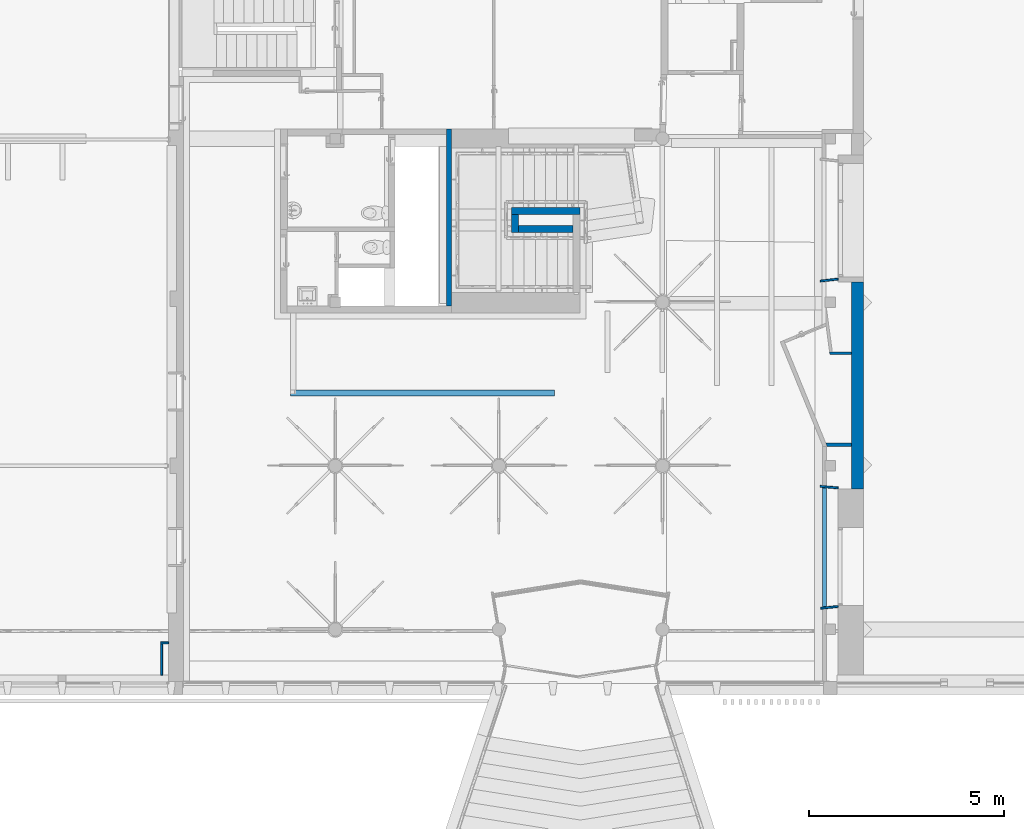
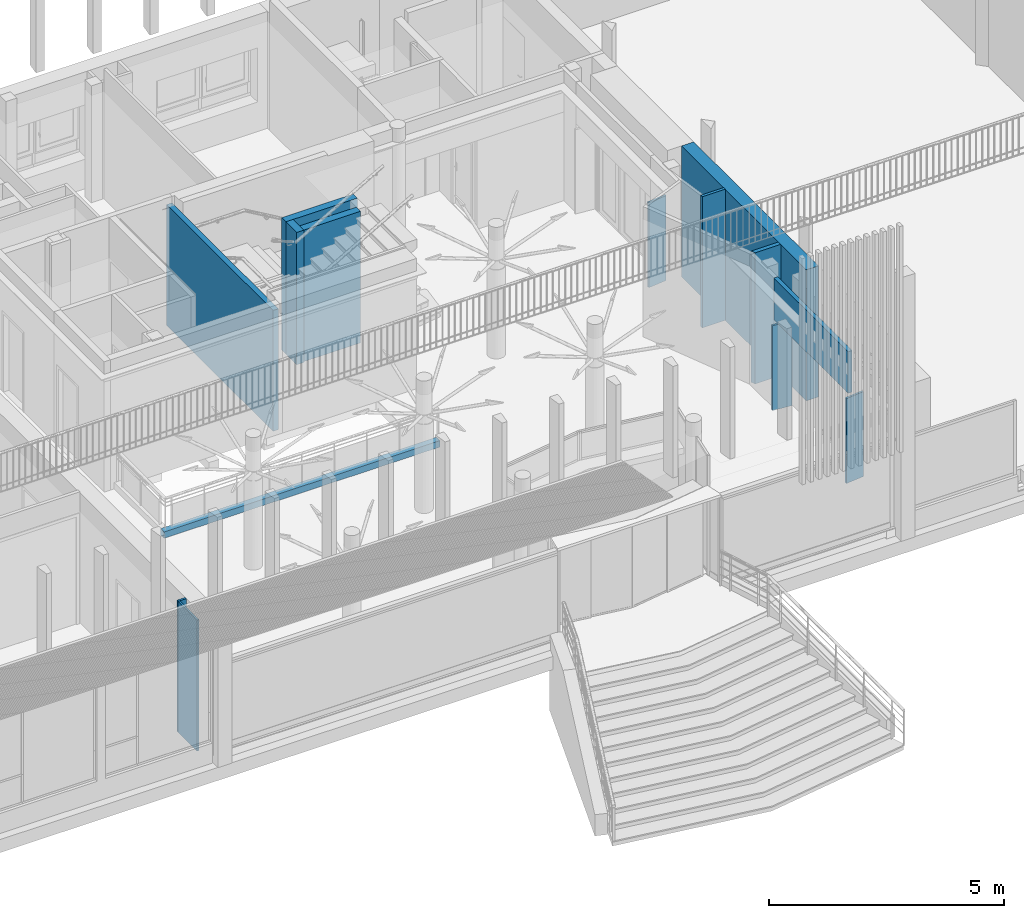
# One storey, part 19 of 65: 14 walls.
"""IFC4 building model written with IfcOpenShell, lengths in metres."""

from ifc_helpers import new_model, entity, si_unit, converted_unit, derived_unit, direction, frame, origin, place, context, subcontext, project, spatial, indexed_curve, outline, extrude, material, layer, layer_set, type_object, element, save


model = new_model("IFC4")

# Units and contexts
model_context = context("Model", 3, precision=1e-05, world=origin(), true_north=direction((6.12303176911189e-17, 1.0)))
body_context = subcontext(model_context, "Body", "Model", "MODEL_VIEW")
ifc_project = project(units=[si_unit("LENGTHUNIT", "METRE"), si_unit("AREAUNIT", "SQUARE_METRE"), si_unit("VOLUMEUNIT", "CUBIC_METRE"), converted_unit("PLANEANGLEUNIT", "DEGREE", entity("IfcRatioMeasure", 0.0174532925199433), si_unit("PLANEANGLEUNIT", "RADIAN"), dimensions=[0, 0, 0, 0, 0, 0, 0]), si_unit("MASSUNIT", "GRAM", prefix="KILO"), derived_unit("MASSDENSITYUNIT", [(si_unit("MASSUNIT", "GRAM", prefix="KILO"), 1), (si_unit("LENGTHUNIT", "METRE"), -3)]), derived_unit("MOMENTOFINERTIAUNIT", [(si_unit("LENGTHUNIT", "METRE"), 4)]), si_unit("TIMEUNIT", "SECOND"), si_unit("FREQUENCYUNIT", "HERTZ"), si_unit("THERMODYNAMICTEMPERATUREUNIT", "DEGREE_CELSIUS"), derived_unit("THERMALTRANSMITTANCEUNIT", [(si_unit("MASSUNIT", "GRAM", prefix="KILO"), 1), (si_unit("THERMODYNAMICTEMPERATUREUNIT", "KELVIN"), -1), (si_unit("TIMEUNIT", "SECOND"), -3)]), derived_unit("VOLUMETRICFLOWRATEUNIT", [(si_unit("LENGTHUNIT", "METRE"), 3), (si_unit("TIMEUNIT", "SECOND"), -1)]), si_unit("ELECTRICCURRENTUNIT", "AMPERE"), si_unit("ELECTRICVOLTAGEUNIT", "VOLT"), si_unit("POWERUNIT", "WATT"), si_unit("FORCEUNIT", "NEWTON", prefix="KILO"), si_unit("ILLUMINANCEUNIT", "LUX"), si_unit("LUMINOUSFLUXUNIT", "LUMEN"), si_unit("LUMINOUSINTENSITYUNIT", "CANDELA"), derived_unit("USERDEFINED", [(si_unit("MASSUNIT", "GRAM", prefix="KILO"), -1), (si_unit("LENGTHUNIT", "METRE"), -2), (si_unit("TIMEUNIT", "SECOND"), 3), (si_unit("LUMINOUSFLUXUNIT", "LUMEN"), 1)]), derived_unit("LINEARVELOCITYUNIT", [(si_unit("LENGTHUNIT", "METRE"), 1), (si_unit("TIMEUNIT", "SECOND"), -1)]), si_unit("PRESSUREUNIT", "PASCAL"), derived_unit("USERDEFINED", [(si_unit("LENGTHUNIT", "METRE"), -2), (si_unit("MASSUNIT", "GRAM", prefix="KILO"), 1), (si_unit("TIMEUNIT", "SECOND"), -2)]), derived_unit("LINEARFORCEUNIT", [(si_unit("MASSUNIT", "GRAM", prefix="KILO"), 1), (si_unit("LENGTHUNIT", "METRE"), 1), (si_unit("TIMEUNIT", "SECOND"), -2), (si_unit("LENGTHUNIT", "METRE"), -1)]), derived_unit("PLANARFORCEUNIT", [(si_unit("MASSUNIT", "GRAM", prefix="KILO"), 1), (si_unit("LENGTHUNIT", "METRE"), 1), (si_unit("TIMEUNIT", "SECOND"), -2), (si_unit("LENGTHUNIT", "METRE"), -2)])], contexts=[model_context])

# Site, building, storey
site_placement = place(None, origin())
site = spatial("IfcSite", under=ifc_project, at=site_placement, Name="Default", CompositionType="ELEMENT")
building_placement = place(site_placement, origin())
building = spatial("IfcBuilding", under=site, at=building_placement, Name="HOTEL CONSULAIRE BOULOGNE SUR MER", CompositionType="ELEMENT")
storey_placement = place(building_placement, origin())
storey = spatial("IfcBuildingStorey", under=building, at=storey_placement, Name="Niveau 0", CompositionType="ELEMENT", Elevation=1.31981936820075e-13)

# Walls
ifc_material = material(Name="Mur par défaut", Category="Divers")
ifc_layer_1 = layer(ifc_material, 0.05, Name="Mur par défaut", Category="Divers")
ifc_layer_set_1 = layer_set([ifc_layer_1], Name="Mur de base:Générique - Int.50")
wall_type_1 = type_object("IfcWallType", Name="Mur de base:Générique - Int.50", PredefinedType="NOTDEFINED", material=ifc_layer_set_1)
wall_1_placement = place(storey_placement, frame((-5.50977317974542, -28.5590902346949, -0.0200000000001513), z_axis=(0.0, 0.0, 1.0), x_axis=(-1.0, 0.0, 0.0)))
element("IfcWall", 1, at=wall_1_placement, inside=storey, type_object=wall_type_1, material=ifc_layer_set_1, Name="Mur de base:Générique - Int.50", ObjectType="Mur de base:Générique - Int.50", PredefinedType="NOTDEFINED", context=body_context, shape_type="SweptSolid", body=[
    extrude(outline(indexed_curve([(0.203734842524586, 0.0249999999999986), (0.0, 0.0249999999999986), (0.0, -0.0249999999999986), (0.203734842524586, -0.0249999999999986), (0.203734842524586, 0.0249999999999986)], self_intersect=False)), origin(), (0.0, 0.0, 1.0), 3.41112697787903),
])
wall_2_placement = place(storey_placement, frame((-5.68850802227, -28.5840902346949, -0.0200000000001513), z_axis=(0.0, 0.0, 1.0), x_axis=(0.0, -1.0, 0.0)))
element("IfcWall", 2, at=wall_2_placement, inside=storey, type_object=wall_type_1, material=ifc_layer_set_1, Name="Mur de base:Générique - Int.50", ObjectType="Mur de base:Générique - Int.50", PredefinedType="NOTDEFINED", context=body_context, shape_type="SweptSolid", body=[
    extrude(outline(indexed_curve([(0.803976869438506, 0.0249999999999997), (-6.69771335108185e-17, 0.0249999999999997), (6.69771335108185e-17, -0.0249999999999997), (0.803976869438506, -0.0249999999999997), (0.803976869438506, 0.0249999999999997)], self_intersect=False)), origin(), (0.0, 0.0, 1.0), 3.40652697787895),
])
wall_3_placement = place(storey_placement, frame((11.221794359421, -19.2729148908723, -0.0200000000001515), z_axis=(0.0, 0.0, 1.0), x_axis=(0.99391194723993, 0.110177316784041, 0.0)))
element("IfcWall", 3, at=wall_3_placement, inside=storey, type_object=wall_type_1, material=ifc_layer_set_1, Name="Mur de base:Générique - Int.50", ObjectType="Mur de base:Générique - Int.50", PredefinedType="NOTDEFINED", context=body_context, shape_type="SweptSolid", body=[
    extrude(outline(indexed_curve([(0.454697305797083, -0.0250000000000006), (0.460239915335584, 0.0250000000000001), (5.55709644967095e-16, 0.0249999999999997), (1.59680602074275e-15, -0.0249999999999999), (0.0377462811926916, -0.0249999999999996), (0.138358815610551, -0.0250000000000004), (0.454697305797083, -0.0250000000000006)], self_intersect=False)), origin(), (0.0, 0.0, 1.0), 2.20791504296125),
])
wall_4_placement = place(storey_placement, frame((11.6790910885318, -27.6249193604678, -0.0200000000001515), z_axis=(0.0, 0.0, 1.0), x_axis=(-0.994521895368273, -0.104528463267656, 0.0)))
element("IfcWall", 4, at=wall_4_placement, inside=storey, type_object=wall_type_1, material=ifc_layer_set_1, Name="Mur de base:Générique - Int.50", ObjectType="Mur de base:Générique - Int.50", PredefinedType="NOTDEFINED", context=body_context, shape_type="SweptSolid", body=[
    extrude(outline(indexed_curve([(0.452, -0.0250000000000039), (0.452000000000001, 0.024999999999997), (0.406932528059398, 0.0249999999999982), (0.306381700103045, 0.0249999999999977), (0.00525521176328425, 0.0249999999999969), (3.5425828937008e-16, -0.0250000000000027), (0.452, -0.0250000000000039)], self_intersect=False)), origin(), (0.0, 0.0, 1.0), 2.20791504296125),
])
wall_5_placement = place(storey_placement, frame((11.6764778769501, -24.5830864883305, -0.0200000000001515), z_axis=(0.0, 0.0, 1.0), x_axis=(-0.996194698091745, 0.0871557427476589, 0.0)))
element("IfcWall", 5, at=wall_5_placement, inside=storey, type_object=wall_type_1, material=ifc_layer_set_1, Name="Mur de base:Générique - Int.50", ObjectType="Mur de base:Générique - Int.50", PredefinedType="NOTDEFINED", context=body_context, shape_type="SweptSolid", body=[
    extrude(outline(indexed_curve([(0.460585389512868, 0.0249999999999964), (-8.75599592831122e-16, 0.0249999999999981), (8.75599592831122e-16, -0.0249999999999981), (0.460585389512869, -0.0249999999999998), (0.460585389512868, 0.0249999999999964)], self_intersect=False)), origin(), (0.0, 0.0, 1.0), 2.20791504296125),
])
ifc_layer_2 = layer(ifc_material, 0.07, Name="Mur par défaut", Category="Divers")
ifc_layer_set_2 = layer_set([ifc_layer_2], Name="Mur de base:Int. Plâtre 70 mm")
wall_type_2 = type_object("IfcWallType", Name="Mur de base:Int. Plâtre 70 mm", PredefinedType="NOTDEFINED", material=ifc_layer_set_2)
wall_6_placement = place(storey_placement, frame((12.0264778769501, -21.1245014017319, -0.0200000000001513), z_axis=(0.0, 0.0, 1.0), x_axis=(-1.0, 0.0, 0.0)))
element("IfcWall", 6, at=wall_6_placement, inside=storey, type_object=wall_type_2, material=ifc_layer_set_2, Name="Mur de base:Int. Plâtre 70 mm", ObjectType="Mur de base:Int. Plâtre 70 mm", PredefinedType="NOTDEFINED", context=body_context, shape_type="SweptSolid", body=[
    extrude(outline(indexed_curve([(0.569376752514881, -0.0350000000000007), (0.560000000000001, 0.0350000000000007), (0.0, 0.0350000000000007), (0.0, -0.0350000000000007), (0.498751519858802, -0.0350000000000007), (0.569376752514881, -0.0350000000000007)], self_intersect=False)), origin(), (0.0, 0.0, 1.0), 3.41112697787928),
])
ifc_layer_3 = layer(ifc_material, 0.18, Name="Mur par défaut", Category="Divers")
ifc_layer_set_3 = layer_set([ifc_layer_3], Name="Mur de base:Générique - Int.180")
wall_type_3 = type_object("IfcWallType", Name="Mur de base:Générique - Int.180", PredefinedType="NOTDEFINED", material=ifc_layer_set_3)
wall_7_placement = place(storey_placement, frame((3.2974549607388, -17.4788875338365, -0.0200000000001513)))
element("IfcWall", 7, at=wall_7_placement, inside=storey, type_object=wall_type_3, material=ifc_layer_set_3, Name="Mur de base:Générique - Int.180", ObjectType="Mur de base:Générique - Int.180", PredefinedType="NOTDEFINED", context=body_context, shape_type="SweptSolid", body=[
    extrude(outline(indexed_curve([(1.75543143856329, 0.0899999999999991), (2.03362004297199e-16, 0.089999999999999), (-2.03362004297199e-16, -0.089999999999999), (1.75543143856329, -0.0899999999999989), (1.75543143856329, 0.0899999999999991)], self_intersect=False)), origin(), (0.0, 0.0, 1.0), 3.44152697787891),
])
wall_8_placement = place(storey_placement, frame((3.3874549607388, -17.5688875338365, -0.0200000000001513), z_axis=(0.0, 0.0, 1.0), x_axis=(0.0, -1.0, 0.0)))
element("IfcWall", 8, at=wall_8_placement, inside=storey, type_object=wall_type_3, material=ifc_layer_set_3, Name="Mur de base:Générique - Int.180", ObjectType="Mur de base:Générique - Int.180", PredefinedType="NOTDEFINED", context=body_context, shape_type="SweptSolid", body=[
    extrude(outline(indexed_curve([(0.456, 0.0900000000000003), (-1.49754604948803e-16, 0.0900000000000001), (1.49754604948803e-16, -0.0900000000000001), (0.456, -0.0899999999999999), (0.456, 0.0900000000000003)], self_intersect=False)), origin(), (0.0, 0.0, 1.0), 3.44152697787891),
])
wall_9_placement = place(storey_placement, frame((3.4774549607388, -17.9348875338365, 0.0)))
element("IfcWall", 9, at=wall_9_placement, inside=storey, type_object=wall_type_3, material=ifc_layer_set_3, Name="Mur de base:Générique - Int.180", ObjectType="Mur de base:Générique - Int.180", PredefinedType="NOTDEFINED", context=body_context, shape_type="SweptSolid", body=[
    extrude(outline(indexed_curve([(1.39543143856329, 0.0899999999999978), (2.02950784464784e-16, 0.089999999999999), (-2.02950784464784e-16, -0.089999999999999), (1.39543143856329, -0.0900000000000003), (1.39543143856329, 0.0899999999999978)], self_intersect=False)), origin(), (0.0, 0.0, 1.0), 3.42152697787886),
])
ifc_layer_4 = layer(ifc_material, 0.1, Name="Mur par défaut", Category="Divers")
ifc_layer_set_4 = layer_set([ifc_layer_4], Name="Mur de base:Générique - Int. 100 mm")
wall_type_4 = type_object("IfcWallType", Name="Mur de base:Générique - Int. 100 mm", PredefinedType="NOTDEFINED", material=ifc_layer_set_4)
wall_10_placement = place(storey_placement, frame((12.0264778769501, -23.4741335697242, -0.0200000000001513), z_axis=(0.0, 0.0, 1.0), x_axis=(-1.0, 0.0, 0.0)))
element("IfcWall", 10, at=wall_10_placement, inside=storey, type_object=wall_type_4, material=ifc_layer_set_4, Name="Mur de base:Générique - Int. 100 mm", ObjectType="Mur de base:Générique - Int. 100 mm", PredefinedType="NOTDEFINED", context=body_context, shape_type="SweptSolid", body=[
    extrude(outline(indexed_curve([(0.669274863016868, -0.0499999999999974), (0.628418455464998, 0.0500000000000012), (-3.13992379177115e-16, 0.0500000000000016), (3.13992379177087e-16, -0.0499999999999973), (0.669274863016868, -0.0499999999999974)], self_intersect=False)), origin(), (0.0, 0.0, 1.0), 3.41112697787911),
])
ifc_layer_5 = layer(ifc_material, 0.13, Name="Mur par défaut", Category="Divers")
ifc_layer_set_5 = layer_set([ifc_layer_5], Name="Mur de base:Générique - Int. 130 mm")
wall_type_5 = type_object("IfcWallType", Name="Mur de base:Générique - Int. 130 mm", PredefinedType="NOTDEFINED", material=ifc_layer_set_5)
wall_11_placement = place(storey_placement, frame((1.69247131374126, -19.9149143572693, -0.0200000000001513), z_axis=(0.0, 0.0, 1.0), x_axis=(0.0, 1.0, 0.0)))
element("IfcWall", 11, at=wall_11_placement, inside=storey, type_object=wall_type_5, material=ifc_layer_set_5, Name="Mur de base:Générique - Int. 130 mm", ObjectType="Mur de base:Générique - Int. 130 mm", PredefinedType="NOTDEFINED", context=body_context, shape_type="SweptSolid", body=[
    extrude(outline(indexed_curve([(4.53967231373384, 0.0650000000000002), (-1.01762265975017e-16, 0.0650000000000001), (1.01762265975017e-16, -0.0650000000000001), (4.53967231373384, -0.065), (4.53967231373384, 0.0650000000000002)], self_intersect=False)), origin(), (0.0, 0.0, 1.0), 3.14470529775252),
])
ifc_layer_6 = layer(ifc_material, 0.15, Name="Mur par défaut", Category="Divers")
ifc_layer_set_6 = layer_set([ifc_layer_6], Name="Mur de base:Générique - Int. 150 mm")
wall_type_6 = type_object("IfcWallType", Name="Mur de base:Générique - Int. 150 mm", PredefinedType="NOTDEFINED", material=ifc_layer_set_6)
wall_12_placement = place(storey_placement, frame((4.39550320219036, -22.1432190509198, 0.0), z_axis=(0.0, 0.0, 1.0), x_axis=(-1.0, 0.0, 0.0)))
element("IfcWall", 12, at=wall_12_placement, inside=storey, type_object=wall_type_6, material=ifc_layer_set_6, Name="Mur de base:Générique - Int. 150 mm", ObjectType="Mur de base:Générique - Int. 150 mm", PredefinedType="NOTDEFINED", context=body_context, shape_type="SweptSolid", body=[
    extrude(outline(indexed_curve([(6.779, 0.0750000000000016), (-2.54406223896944e-16, 0.0750000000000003), (2.54406223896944e-16, -0.0750000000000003), (6.779, -0.0749999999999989), (6.779, 0.0750000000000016)], self_intersect=False)), origin(), (0.0, 0.0, 1.0), 0.166621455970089),
])
ifc_layer_7 = layer(ifc_material, 0.3, Name="Mur par défaut", Category="Divers")
ifc_layer_set_7 = layer_set([ifc_layer_7], Name="Mur de base:Générique - Int. 300 mm")
wall_type_7 = type_object("IfcWallType", Name="Mur de base:Générique - Int. 300 mm", PredefinedType="NOTDEFINED", material=ifc_layer_set_7)
wall_13_placement = place(storey_placement, frame((12.1764778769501, -24.6115203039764, -0.0200000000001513), z_axis=(0.0, 0.0, 1.0), x_axis=(0.0, 1.0, 0.0)))
element("IfcWall", 13, at=wall_13_placement, inside=storey, type_object=wall_type_7, material=ifc_layer_set_7, Name="Mur de base:Générique - Int. 300 mm", ObjectType="Mur de base:Générique - Int. 300 mm", PredefinedType="NOTDEFINED", context=body_context, shape_type="SweptSolid", body=[
    extrude(outline(indexed_curve([(5.31466762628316, 0.15), (-1.73933166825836e-16, 0.150000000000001), (1.73933166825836e-16, -0.150000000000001), (5.31466762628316, -0.150000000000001), (5.31466762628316, 0.15)], self_intersect=False)), origin(), (0.0, 0.0, 1.0), 3.40652697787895),
])
ifc_layer_8 = layer(ifc_material, 0.1, Name="Mur par défaut", Category="Divers")
ifc_layer_set_8 = layer_set([ifc_layer_8], Name="Mur de base:Int. Plâtre 100 mm")
wall_type_8 = type_object("IfcWallType", Name="Mur de base:Int. Plâtre 100 mm", PredefinedType="NOTDEFINED", material=ifc_layer_set_8)
wall_14_placement = place(storey_placement, frame((11.3270009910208, -27.6923184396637, 2.30615028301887), z_axis=(0.0, 0.0, 1.0), x_axis=(0.0, 1.0, 0.0)))
element("IfcWall", 14, at=wall_14_placement, inside=storey, type_object=wall_type_8, material=ifc_layer_set_8, Name="Mur de base:Int. Plâtre 100 mm", ObjectType="Mur de base:Int. Plâtre 100 mm", PredefinedType="NOTDEFINED", context=body_context, shape_type="SweptSolid", body=[
    extrude(outline(indexed_curve([(3.16927714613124, 0.0499999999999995), (0.0, 0.0499999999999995), (0.0, -0.0499999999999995), (3.16927714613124, -0.0499999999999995), (3.16927714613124, 0.0499999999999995)], self_intersect=False)), origin(), (0.0, 0.0, 1.0), 1.08037669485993),
])

save(model, "model.ifc")
